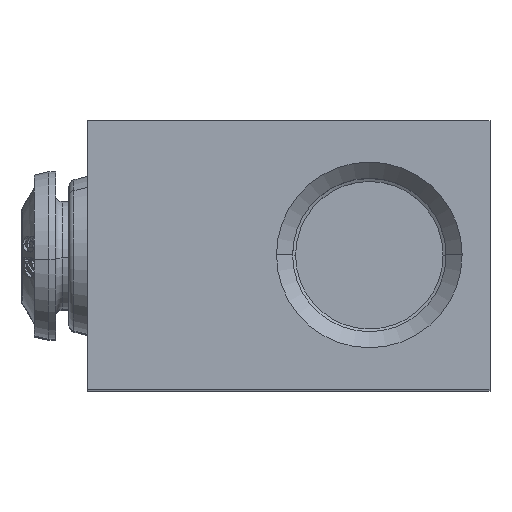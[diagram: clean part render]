
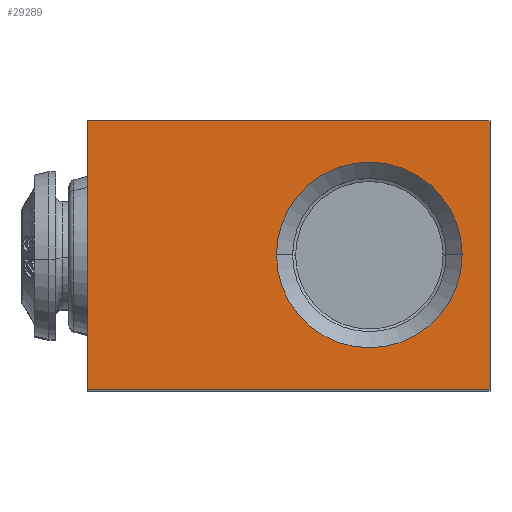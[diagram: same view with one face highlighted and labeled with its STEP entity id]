
A CAD part, top view. The second image highlights one B-rep face of the part: STEP entity #29289.
In plain terms, the highlighted planar face has unit normal (0, 0, 1).
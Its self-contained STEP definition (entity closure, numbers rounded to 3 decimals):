
#1468 = FACE_BOUND ( 'NONE', #2509, .T. ) ;
#1472 = FACE_OUTER_BOUND ( 'NONE', #2519, .T. ) ;
#2509 = EDGE_LOOP ( 'NONE', ( #20949, #20948 ) ) ;
#2519 = EDGE_LOOP ( 'NONE', ( #20947, #20946, #35780, #35779 ) ) ;
#4036 = PLANE ( 'NONE',  #14992 ) ;
#4043 = CARTESIAN_POINT ( 'NONE',  ( 16.318, 13.313, 35.902 ) ) ;
#4044 = DIRECTION ( 'NONE',  ( 0., 0., 1. ) ) ;
#4045 = DIRECTION ( 'NONE',  ( 1., 0., 0. ) ) ;
#5608 = EDGE_CURVE ( 'NONE', #18412, #18411, #35151, .T. ) ;
#5796 = EDGE_CURVE ( 'NONE', #14241, #14242, #37249, .T. ) ;
#5802 = EDGE_CURVE ( 'NONE', #14242, #14239, #37253, .T. ) ;
#5805 = EDGE_CURVE ( 'NONE', #14239, #14236, #37261, .T. ) ;
#5809 = EDGE_CURVE ( 'NONE', #14236, #14241, #37273, .T. ) ;
#5810 = EDGE_CURVE ( 'NONE', #18411, #18412, #37275, .T. ) ;
#9047 = CARTESIAN_POINT ( 'NONE',  ( 16.318, 33.313, 35.902 ) ) ;
#9054 = DIRECTION ( 'NONE',  ( 0., -1., 0. ) ) ;
#9061 = CARTESIAN_POINT ( 'NONE',  ( 46.318, 33.313, 35.902 ) ) ;
#9062 = CARTESIAN_POINT ( 'NONE',  ( 16.318, 13.313, 35.902 ) ) ;
#9068 = DIRECTION ( 'NONE',  ( 1., 0., 0. ) ) ;
#9073 = DIRECTION ( 'NONE',  ( 0., 1., 0. ) ) ;
#9082 = CARTESIAN_POINT ( 'NONE',  ( 16.318, 33.313, 35.902 ) ) ;
#9083 = DIRECTION ( 'NONE',  ( -1., 0., 0. ) ) ;
#9084 = CARTESIAN_POINT ( 'NONE',  ( 37.318, 23.313, 35.902 ) ) ;
#9085 = DIRECTION ( 'NONE',  ( 0., 0., -1. ) ) ;
#9086 = DIRECTION ( 'NONE',  ( 1., 0., 0. ) ) ;
#11302 = CARTESIAN_POINT ( 'NONE',  ( 46.318, 33.313, 35.902 ) ) ;
#11308 = CARTESIAN_POINT ( 'NONE',  ( 46.318, 13.313, 35.902 ) ) ;
#11312 = CARTESIAN_POINT ( 'NONE',  ( 16.318, 33.313, 35.902 ) ) ;
#11314 = CARTESIAN_POINT ( 'NONE',  ( 16.318, 13.313, 35.902 ) ) ;
#14236 = VERTEX_POINT ( 'NONE', #11302 ) ;
#14239 = VERTEX_POINT ( 'NONE', #11308 ) ;
#14241 = VERTEX_POINT ( 'NONE', #11312 ) ;
#14242 = VERTEX_POINT ( 'NONE', #11314 ) ;
#14992 = AXIS2_PLACEMENT_3D ( 'NONE', #4043, #4044, #4045 ) ;
#18411 = VERTEX_POINT ( 'NONE', #29498 ) ;
#18412 = VERTEX_POINT ( 'NONE', #29499 ) ;
#18958 = CARTESIAN_POINT ( 'NONE',  ( 37.318, 23.313, 35.902 ) ) ;
#18959 = DIRECTION ( 'NONE',  ( 0., 0., -1. ) ) ;
#18960 = DIRECTION ( 'NONE',  ( 1., 0., 0. ) ) ;
#20751 = AXIS2_PLACEMENT_3D ( 'NONE', #18958, #18959, #18960 ) ;
#20789 = AXIS2_PLACEMENT_3D ( 'NONE', #9084, #9085, #9086 ) ;
#20946 = ORIENTED_EDGE ( 'NONE', *, *, #5802, .T. ) ;
#20947 = ORIENTED_EDGE ( 'NONE', *, *, #5796, .T. ) ;
#20948 = ORIENTED_EDGE ( 'NONE', *, *, #5810, .T. ) ;
#20949 = ORIENTED_EDGE ( 'NONE', *, *, #5608, .T. ) ;
#29289 = ADVANCED_FACE ( 'NONE', ( #1468, #1472 ), #4036, .T. ) ;
#29498 = CARTESIAN_POINT ( 'NONE',  ( 30.395, 23.313, 35.902 ) ) ;
#29499 = CARTESIAN_POINT ( 'NONE',  ( 44.24, 23.313, 35.902 ) ) ;
#35151 = CIRCLE ( 'NONE', #20751, 6.923 ) ;
#35779 = ORIENTED_EDGE ( 'NONE', *, *, #5809, .T. ) ;
#35780 = ORIENTED_EDGE ( 'NONE', *, *, #5805, .T. ) ;
#37249 = LINE ( 'NONE', #9047, #37254 ) ;
#37253 = LINE ( 'NONE', #9062, #37264 ) ;
#37254 = VECTOR ( 'NONE', #9054, 1000. ) ;
#37261 = LINE ( 'NONE', #9061, #37270 ) ;
#37264 = VECTOR ( 'NONE', #9068, 1000. ) ;
#37270 = VECTOR ( 'NONE', #9073, 1000. ) ;
#37273 = LINE ( 'NONE', #9082, #37276 ) ;
#37275 = CIRCLE ( 'NONE', #20789, 6.923 ) ;
#37276 = VECTOR ( 'NONE', #9083, 1000. ) ;
